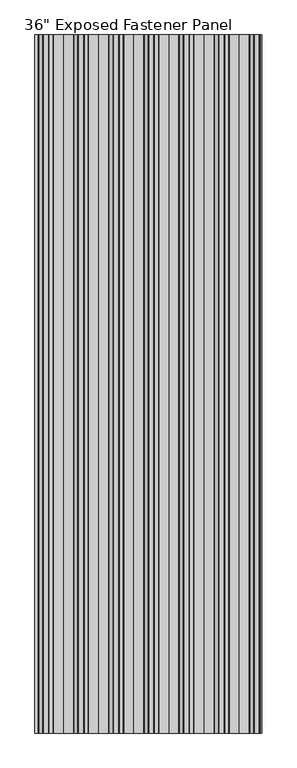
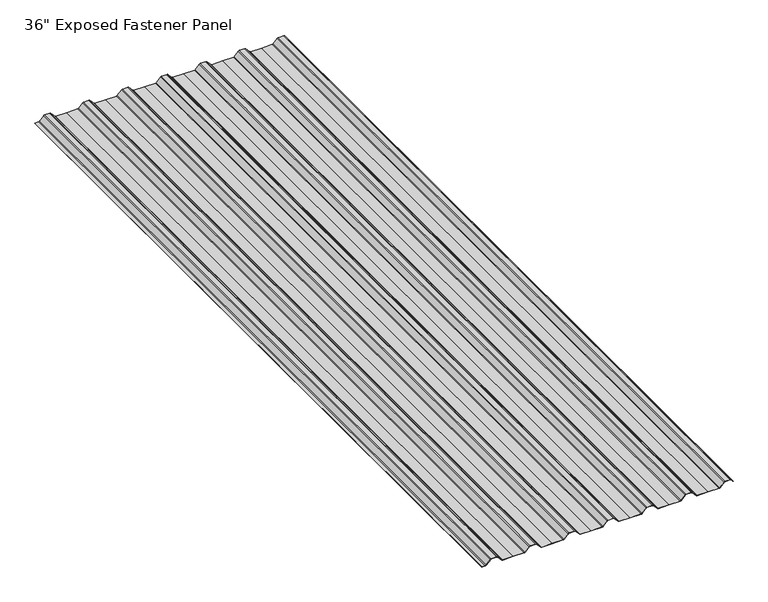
"""IFC4 building model written with IfcOpenShell, lengths in millimetres: proxy geometry."""

from ifc_helpers import new_model, si_unit, point, frame, frame_2d, origin, place, context, project, spatial, polyline, circle_curve, trimmed, segment, composite_curve, outline, extrude, source, transform, mapped, element, save


def proxy_794bf6ff(model_context):
    return source(origin(), model_context, "Body", "SweptSolid", [
        extrude(outline(composite_curve([segment(polyline([(15.6340253, 477.2313581), (10.9128032, 480.9199811), (11.3944474, 481.5364577), (16.11908, 477.8000439), (19.4700766, 474.6834496)]), True, "CONTINUOUS"), segment(trimmed(circle_curve(frame_2d((15.9337897, 470.8811948)), 5.1925395), [point((19.4700766, 474.6834496))], [point((21.1263292, 470.8811948))], False, "CARTESIAN"), True, "CONTINUOUS"), segment(polyline([(21.1263292, 470.8811948), (21.1263292, 449.7957586)]), True, "CONTINUOUS"), segment(trimmed(circle_curve(frame_2d((15.9337897, 449.7957586)), 5.1925395), [point((21.1263292, 449.7957586))], [point((19.4750932, 445.9981756))], False, "CARTESIAN"), True, "CONTINUOUS"), segment(polyline([(19.4750932, 445.9981756), (2.1208837, 429.8151135)]), True, "CONTINUOUS"), segment(trimmed(circle_curve(frame_2d((5.0678816, 426.6548452)), 4.3211216), [point((2.1208837, 429.8151135))], [point((0.74676, 426.6548452))], True, "CARTESIAN"), True, "CONTINUOUS"), segment(polyline([(0.74676, 426.6548452), (0.74676, 383.6154148), (0.74676, 340.5759844)]), True, "CONTINUOUS"), segment(trimmed(circle_curve(frame_2d((5.0678816, 340.5759844)), 4.3211216), [point((0.74676, 340.5759844))], [point((2.1208837, 337.4157161))], True, "CARTESIAN"), True, "CONTINUOUS"), segment(polyline([(2.1208837, 337.4157161), (19.4750932, 321.232654)]), True, "CONTINUOUS"), segment(trimmed(circle_curve(frame_2d((15.9337897, 317.435071)), 5.1925395), [point((19.4750932, 321.232654))], [point((21.1263292, 317.435071))], False, "CARTESIAN"), True, "CONTINUOUS"), segment(polyline([(21.1263292, 317.435071), (21.1263292, 296.3495927)]), True, "CONTINUOUS"), segment(trimmed(circle_curve(frame_2d((15.9337897, 296.3495927)), 5.1925395), [point((21.1263292, 296.3495927))], [point((19.4750932, 292.5520097))], False, "CARTESIAN"), True, "CONTINUOUS"), segment(polyline([(19.4750932, 292.5520097), (2.1208837, 276.3689476)]), True, "CONTINUOUS"), segment(trimmed(circle_curve(frame_2d((5.0678816, 273.2086793)), 4.3211216), [point((2.1208837, 276.3689476))], [point((0.74676, 273.2086793))], True, "CARTESIAN"), True, "CONTINUOUS"), segment(polyline([(0.74676, 273.2086793), (0.74676, 230.1692489), (0.74676, 187.1298184)]), True, "CONTINUOUS"), segment(trimmed(circle_curve(frame_2d((5.0678816, 187.1298184)), 4.3211216), [point((0.74676, 187.1298184))], [point((2.1208837, 183.9695502))], True, "CARTESIAN"), True, "CONTINUOUS"), segment(polyline([(2.1208837, 183.9695502), (19.4750932, 167.7864881)]), True, "CONTINUOUS"), segment(trimmed(circle_curve(frame_2d((15.9337897, 163.9889051)), 5.1925395), [point((19.4750932, 167.7864881))], [point((21.1263292, 163.9889051))], False, "CARTESIAN"), True, "CONTINUOUS"), segment(polyline([(21.1263292, 163.9889051), (21.1263292, 142.9034268)]), True, "CONTINUOUS"), segment(trimmed(circle_curve(frame_2d((15.9337897, 142.9034268)), 5.1925395), [point((21.1263292, 142.9034268))], [point((19.4750932, 139.1058437))], False, "CARTESIAN"), True, "CONTINUOUS"), segment(polyline([(19.4750932, 139.1058437), (2.1208837, 122.9227816)]), True, "CONTINUOUS"), segment(trimmed(circle_curve(frame_2d((5.0678816, 119.7625134)), 4.3211216), [point((2.1208837, 122.9227816))], [point((0.74676, 119.7625134))], True, "CARTESIAN"), True, "CONTINUOUS"), segment(polyline([(0.74676, 119.7625134), (0.74676, 76.723083), (0.74676, 33.6836525)]), True, "CONTINUOUS"), segment(trimmed(circle_curve(frame_2d((5.0678816, 33.6836525)), 4.3211216), [point((0.74676, 33.6836525))], [point((2.1208837, 30.5233843))], True, "CARTESIAN"), True, "CONTINUOUS"), segment(polyline([(2.1208837, 30.5233843), (19.4750932, 14.3403222)]), True, "CONTINUOUS"), segment(trimmed(circle_curve(frame_2d((15.9337897, 10.5427392)), 5.1925395), [point((19.4750932, 14.3403222))], [point((21.1263292, 10.5427392))], False, "CARTESIAN"), True, "CONTINUOUS"), segment(polyline([(21.1263292, 10.5427392), (21.1263292, -10.5427392)]), True, "CONTINUOUS"), segment(trimmed(circle_curve(frame_2d((15.9337897, -10.5427392)), 5.1925395), [point((21.1263292, -10.5427392))], [point((19.4750932, -14.3403222))], False, "CARTESIAN"), True, "CONTINUOUS"), segment(polyline([(19.4750932, -14.3403222), (2.1208837, -30.5233843)]), True, "CONTINUOUS"), segment(trimmed(circle_curve(frame_2d((5.0678816, -33.6836525)), 4.3211216), [point((2.1208837, -30.5233843))], [point((0.74676, -33.6836525))], True, "CARTESIAN"), True, "CONTINUOUS"), segment(polyline([(0.74676, -33.6836525), (0.74676, -76.723083), (0.74676, -119.7625134)]), True, "CONTINUOUS"), segment(trimmed(circle_curve(frame_2d((5.0678816, -119.7625134)), 4.3211216), [point((0.74676, -119.7625134))], [point((2.1208837, -122.9227816))], True, "CARTESIAN"), True, "CONTINUOUS"), segment(polyline([(2.1208837, -122.9227816), (19.4750932, -139.1058437)]), True, "CONTINUOUS"), segment(trimmed(circle_curve(frame_2d((15.9337897, -142.9034268)), 5.1925395), [point((19.4750932, -139.1058437))], [point((21.1263292, -142.9034268))], False, "CARTESIAN"), True, "CONTINUOUS"), segment(polyline([(21.1263292, -142.9034268), (21.1263292, -163.9889051)]), True, "CONTINUOUS"), segment(trimmed(circle_curve(frame_2d((15.9337897, -163.9889051)), 5.1925395), [point((21.1263292, -163.9889051))], [point((19.4750932, -167.7864881))], False, "CARTESIAN"), True, "CONTINUOUS"), segment(polyline([(19.4750932, -167.7864881), (2.1208837, -183.9695502)]), True, "CONTINUOUS"), segment(trimmed(circle_curve(frame_2d((5.0678816, -187.1298184)), 4.3211216), [point((2.1208837, -183.9695502))], [point((0.74676, -187.1298184))], True, "CARTESIAN"), True, "CONTINUOUS"), segment(polyline([(0.74676, -187.1298184), (0.74676, -230.1692489), (0.74676, -273.2086793)]), True, "CONTINUOUS"), segment(trimmed(circle_curve(frame_2d((5.0678816, -273.2086793)), 4.3211216), [point((0.74676, -273.2086793))], [point((2.1208837, -276.3689476))], True, "CARTESIAN"), True, "CONTINUOUS"), segment(polyline([(2.1208837, -276.3689476), (19.4750932, -292.5520097)]), True, "CONTINUOUS"), segment(trimmed(circle_curve(frame_2d((15.9337897, -296.3495927)), 5.1925395), [point((19.4750932, -292.5520097))], [point((21.1263292, -296.3495927))], False, "CARTESIAN"), True, "CONTINUOUS"), segment(polyline([(21.1263292, -296.3495927), (21.1263292, -317.435071)]), True, "CONTINUOUS"), segment(trimmed(circle_curve(frame_2d((15.9337897, -317.435071)), 5.1925395), [point((21.1263292, -317.435071))], [point((19.4750932, -321.232654))], False, "CARTESIAN"), True, "CONTINUOUS"), segment(polyline([(19.4750932, -321.232654), (2.1208837, -337.4157161)]), True, "CONTINUOUS"), segment(trimmed(circle_curve(frame_2d((5.0678816, -340.5759844)), 4.3211216), [point((2.1208837, -337.4157161))], [point((0.74676, -340.5759844))], True, "CARTESIAN"), True, "CONTINUOUS"), segment(polyline([(0.74676, -340.5759844), (0.74676, -383.6154148), (0.74676, -426.6548452)]), True, "CONTINUOUS"), segment(trimmed(circle_curve(frame_2d((5.0678816, -426.6548452)), 4.3211216), [point((0.74676, -426.6548452))], [point((2.1208837, -429.8151135))], True, "CARTESIAN"), True, "CONTINUOUS"), segment(polyline([(2.1208837, -429.8151135), (19.4750932, -445.9981756)]), True, "CONTINUOUS"), segment(trimmed(circle_curve(frame_2d((15.9337897, -449.7957586)), 5.1925395), [point((19.4750932, -445.9981756))], [point((21.1263292, -449.7957586))], False, "CARTESIAN"), True, "CONTINUOUS"), segment(polyline([(21.1263292, -449.7957586), (21.1263292, -470.8812369)]), True, "CONTINUOUS"), segment(trimmed(circle_curve(frame_2d((15.9337897, -470.8812369)), 5.1925395), [point((21.1263292, -470.8812369))], [point((19.4750932, -474.6788199))], False, "CARTESIAN"), True, "CONTINUOUS"), segment(polyline([(19.4750932, -474.6788199), (2.1208837, -490.861882)]), True, "CONTINUOUS"), segment(trimmed(circle_curve(frame_2d((5.0678816, -494.0221503)), 4.3211216), [point((2.1208837, -490.861882))], [point((0.74676, -494.0221503))], True, "CARTESIAN"), True, "CONTINUOUS"), segment(polyline([(0.74676, -494.0221503), (0.78232, -509.209136), (0.0, -509.209136), (0.0, -494.0425821)]), True, "CONTINUOUS"), segment(trimmed(circle_curve(frame_2d((5.1148716, -494.0425821)), 5.1148716), [point((0.0, -494.0425821))], [point((1.6265375, -490.3018019))], False, "CARTESIAN"), True, "CONTINUOUS"), segment(polyline([(1.6265375, -490.3018019), (18.980747, -474.1187398)]), True, "CONTINUOUS"), segment(trimmed(circle_curve(frame_2d((15.9807797, -470.9016688)), 4.3987895), [point((18.980747, -474.1187398))], [point((20.3795692, -470.9016688))], True, "CARTESIAN"), True, "CONTINUOUS"), segment(polyline([(20.3795692, -470.9016688), (20.3795692, -449.7753268)]), True, "CONTINUOUS"), segment(trimmed(circle_curve(frame_2d((15.9807797, -449.7753268)), 4.3987895), [point((20.3795692, -449.7753268))], [point((18.980747, -446.5582557))], True, "CARTESIAN"), True, "CONTINUOUS"), segment(polyline([(18.980747, -446.5582557), (1.6265375, -430.3751936)]), True, "CONTINUOUS"), segment(trimmed(circle_curve(frame_2d((5.1148716, -426.6344134)), 5.1148716), [point((1.6265375, -430.3751936))], [point((0.0, -426.6344134))], False, "CARTESIAN"), True, "CONTINUOUS"), segment(polyline([(0.0, -426.6344134), (0.0, -383.6154148), (0.0, -340.5964162)]), True, "CONTINUOUS"), segment(trimmed(circle_curve(frame_2d((5.1148716, -340.5964162)), 5.1148716), [point((0.0, -340.5964162))], [point((1.6265375, -336.855636))], False, "CARTESIAN"), True, "CONTINUOUS"), segment(polyline([(1.6265375, -336.855636), (18.980747, -320.6725739)]), True, "CONTINUOUS"), segment(trimmed(circle_curve(frame_2d((15.9807797, -317.4555028)), 4.3987895), [point((18.980747, -320.6725739))], [point((20.3795692, -317.4555028))], True, "CARTESIAN"), True, "CONTINUOUS"), segment(polyline([(20.3795692, -317.4555028), (20.3795692, -296.3291608)]), True, "CONTINUOUS"), segment(trimmed(circle_curve(frame_2d((15.9807797, -296.3291608)), 4.3987895), [point((20.3795692, -296.3291608))], [point((18.980747, -293.1120898))], True, "CARTESIAN"), True, "CONTINUOUS"), segment(polyline([(18.980747, -293.1120898), (1.6265375, -276.9290277)]), True, "CONTINUOUS"), segment(trimmed(circle_curve(frame_2d((5.1148716, -273.1882475)), 5.1148716), [point((1.6265375, -276.9290277))], [point((0.0, -273.1882475))], False, "CARTESIAN"), True, "CONTINUOUS"), segment(polyline([(0.0, -273.1882475), (0.0, -230.1692489), (0.0, -187.1502503)]), True, "CONTINUOUS"), segment(trimmed(circle_curve(frame_2d((5.1148716, -187.1502503)), 5.1148716), [point((0.0, -187.1502503))], [point((1.6265375, -183.40947))], False, "CARTESIAN"), True, "CONTINUOUS"), segment(polyline([(1.6265375, -183.40947), (18.980747, -167.2264079)]), True, "CONTINUOUS"), segment(trimmed(circle_curve(frame_2d((15.9807797, -164.0093369)), 4.3987895), [point((18.980747, -167.2264079))], [point((20.3795692, -164.0093369))], True, "CARTESIAN"), True, "CONTINUOUS"), segment(polyline([(20.3795692, -164.0093369), (20.3795692, -142.8829949)]), True, "CONTINUOUS"), segment(trimmed(circle_curve(frame_2d((15.9807797, -142.8829949)), 4.3987895), [point((20.3795692, -142.8829949))], [point((18.980747, -139.6659239))], True, "CARTESIAN"), True, "CONTINUOUS"), segment(polyline([(18.980747, -139.6659239), (1.6265375, -123.4828618)]), True, "CONTINUOUS"), segment(trimmed(circle_curve(frame_2d((5.1148716, -119.7420816)), 5.1148716), [point((1.6265375, -123.4828618))], [point((0.0, -119.7420816))], False, "CARTESIAN"), True, "CONTINUOUS"), segment(polyline([(0.0, -119.7420816), (0.0, -76.723083), (0.0, -33.7040844)]), True, "CONTINUOUS"), segment(trimmed(circle_curve(frame_2d((5.1148716, -33.7040844)), 5.1148716), [point((0.0, -33.7040844))], [point((1.6265375, -29.9633041))], False, "CARTESIAN"), True, "CONTINUOUS"), segment(polyline([(1.6265375, -29.9633041), (18.980747, -13.780242)]), True, "CONTINUOUS"), segment(trimmed(circle_curve(frame_2d((15.9807797, -10.563171)), 4.3987895), [point((18.980747, -13.780242))], [point((20.3795692, -10.563171))], True, "CARTESIAN"), True, "CONTINUOUS"), segment(polyline([(20.3795692, -10.563171), (20.3795692, 10.563171)]), True, "CONTINUOUS"), segment(trimmed(circle_curve(frame_2d((15.9807797, 10.563171)), 4.3987895), [point((20.3795692, 10.563171))], [point((18.980747, 13.780242))], True, "CARTESIAN"), True, "CONTINUOUS"), segment(polyline([(18.980747, 13.780242), (1.6265375, 29.9633041)]), True, "CONTINUOUS"), segment(trimmed(circle_curve(frame_2d((5.1148716, 33.7040844)), 5.1148716), [point((1.6265375, 29.9633041))], [point((0.0, 33.7040844))], False, "CARTESIAN"), True, "CONTINUOUS"), segment(polyline([(0.0, 33.7040844), (0.0, 76.723083), (0.0, 119.7420816)]), True, "CONTINUOUS"), segment(trimmed(circle_curve(frame_2d((5.1148716, 119.7420816)), 5.1148716), [point((0.0, 119.7420816))], [point((1.6265375, 123.4828618))], False, "CARTESIAN"), True, "CONTINUOUS"), segment(polyline([(1.6265375, 123.4828618), (18.980747, 139.6659239)]), True, "CONTINUOUS"), segment(trimmed(circle_curve(frame_2d((15.9807797, 142.8829949)), 4.3987895), [point((18.980747, 139.6659239))], [point((20.3795692, 142.8829949))], True, "CARTESIAN"), True, "CONTINUOUS"), segment(polyline([(20.3795692, 142.8829949), (20.3795692, 164.0093369)]), True, "CONTINUOUS"), segment(trimmed(circle_curve(frame_2d((15.9807797, 164.0093369)), 4.3987895), [point((20.3795692, 164.0093369))], [point((18.980747, 167.2264079))], True, "CARTESIAN"), True, "CONTINUOUS"), segment(polyline([(18.980747, 167.2264079), (1.6265375, 183.40947)]), True, "CONTINUOUS"), segment(trimmed(circle_curve(frame_2d((5.1148716, 187.1502503)), 5.1148716), [point((1.6265375, 183.40947))], [point((0.0, 187.1502503))], False, "CARTESIAN"), True, "CONTINUOUS"), segment(polyline([(0.0, 187.1502503), (0.0, 230.1692489), (0.0, 273.1882475)]), True, "CONTINUOUS"), segment(trimmed(circle_curve(frame_2d((5.1148716, 273.1882475)), 5.1148716), [point((0.0, 273.1882475))], [point((1.6265375, 276.9290277))], False, "CARTESIAN"), True, "CONTINUOUS"), segment(polyline([(1.6265375, 276.9290277), (18.980747, 293.1120898)]), True, "CONTINUOUS"), segment(trimmed(circle_curve(frame_2d((15.9807797, 296.3291608)), 4.3987895), [point((18.980747, 293.1120898))], [point((20.3795692, 296.3291608))], True, "CARTESIAN"), True, "CONTINUOUS"), segment(polyline([(20.3795692, 296.3291608), (20.3795692, 317.4555028)]), True, "CONTINUOUS"), segment(trimmed(circle_curve(frame_2d((15.9807797, 317.4555028)), 4.3987895), [point((20.3795692, 317.4555028))], [point((18.980747, 320.6725739))], True, "CARTESIAN"), True, "CONTINUOUS"), segment(polyline([(18.980747, 320.6725739), (1.6265375, 336.855636)]), True, "CONTINUOUS"), segment(trimmed(circle_curve(frame_2d((5.1148716, 340.5964162)), 5.1148716), [point((1.6265375, 336.855636))], [point((0.0, 340.5964162))], False, "CARTESIAN"), True, "CONTINUOUS"), segment(polyline([(0.0, 340.5964162), (0.0, 383.6154148), (0.0, 426.6344134)]), True, "CONTINUOUS"), segment(trimmed(circle_curve(frame_2d((5.1148716, 426.6344134)), 5.1148716), [point((0.0, 426.6344134))], [point((1.6265375, 430.3751936))], False, "CARTESIAN"), True, "CONTINUOUS"), segment(polyline([(1.6265375, 430.3751936), (18.980747, 446.5582557)]), True, "CONTINUOUS"), segment(trimmed(circle_curve(frame_2d((15.9807797, 449.7753268)), 4.3987895), [point((18.980747, 446.5582557))], [point((20.3795692, 449.7753268))], True, "CARTESIAN"), True, "CONTINUOUS"), segment(polyline([(20.3795692, 449.7753268), (20.3795692, 470.9016688)]), True, "CONTINUOUS"), segment(trimmed(circle_curve(frame_2d((15.9807797, 470.9016688)), 4.3987895), [point((20.3795692, 470.9016688))], [point((18.9807463, 474.1187404))], True, "CARTESIAN"), True, "CONTINUOUS"), segment(polyline([(18.9807463, 474.1187404), (15.6340253, 477.2313581)]), True, "CONTINUOUS")], self_intersect=False)), frame((0.0, -3048.0, 0.0), z_axis=(0.0, 1.0, 0.0), x_axis=(0.0, 0.0, 1.0)), (0.0, 0.0, 1.0), 3048.0),
    ])


if __name__ == "__main__":
    model = new_model("IFC4")
    model_context = context("Model", 3, world=origin())
    ifc_project = project(units=[si_unit("LENGTHUNIT", "METRE", prefix="MILLI")], contexts=[model_context])
    site = spatial("IfcSite", under=ifc_project)
    building = spatial("IfcBuilding", under=site)
    placement = place(None, origin())
    proxy_shape = proxy_794bf6ff(model_context)
    element("IfcBuildingElementProxy", 1, Name="Metal_Siding_Exposed-Fastener-Panel_Steelscape : 36\" Exposed Fastener Panel", ObjectType="Metal_Siding_Exposed-Fastener-Panel_Steelscape : 36\" Exposed Fastener Panel", at=placement, inside=building, context=model_context, shape_type="MappedRepresentation", body=[
        mapped(proxy_shape, transform((0.0, 0.0, 0.0), x_axis=(1.0, 0.0, 0.0), y_axis=(0.0, 1.0, 0.0), z_axis=(0.0, 0.0, 1.0))),
    ])
    save(model, "model.ifc")
